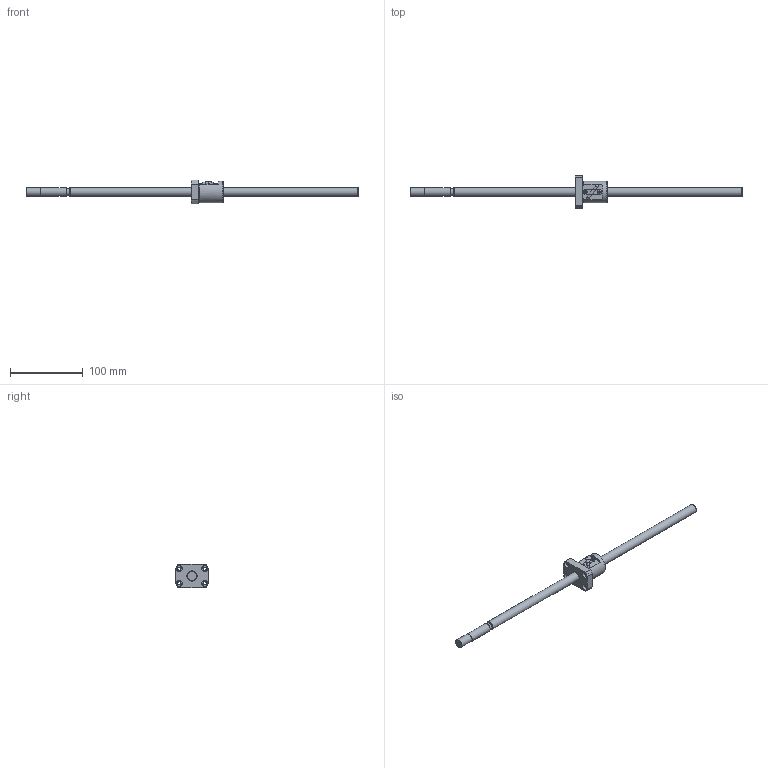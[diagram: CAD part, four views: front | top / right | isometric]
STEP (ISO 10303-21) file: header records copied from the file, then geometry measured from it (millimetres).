
FILE_DESCRIPTION((''),'2;1');
FILE_NAME('D:\製品 (図面)\カタログ用3D\ネジ関連\STEP形式\KBS(C)\KBS(C)1205-455.stp','2010-06-02T09:19:44',('Tsuchiya'),(''),'Autodesk Inventor 10','Autodesk Inventor 10','');
FILE_SCHEMA(('AUTOMOTIVE_DESIGN { 1 0 10303 214 1 1 1 1 }'));
Length unit declared in the file: millimetre
Products named in the file (3): KBS(C)1205-455; KBS(C)1205-4551; KBS(C)1205-4552
Assembly tree (2 placements, depth 2):
  KBS(C)1205-455
    KBS(C)1205-4551
    KBS(C)1205-4552
Bounding box: 455 x 45 x 32 mm (x, y, z)
Volume: 81067.2 mm3; surface area: 27450.4 mm2
Topology: 2 solids, 2 shells, 101 faces, 255 edges, 168 vertices
Faces by surface type: plane 42, cylinder 34, bspline 20, cone 3, torus 2
Full cylindrical faces by diameter (mm): 3.2 x1, 4.5 x4, 5.6 x1, 8 x4, 9.5 x1, 11.7 x1, 12 x3, 14 x2, 30 x1
Entity records: 3267 total; most frequent: CARTESIAN_POINT 930, ORIENTED_EDGE 444, DIRECTION 440, EDGE_CURVE 222, AXIS2_PLACEMENT_3D 164, VERTEX_POINT 162, EDGE_LOOP 154, VECTOR 112
